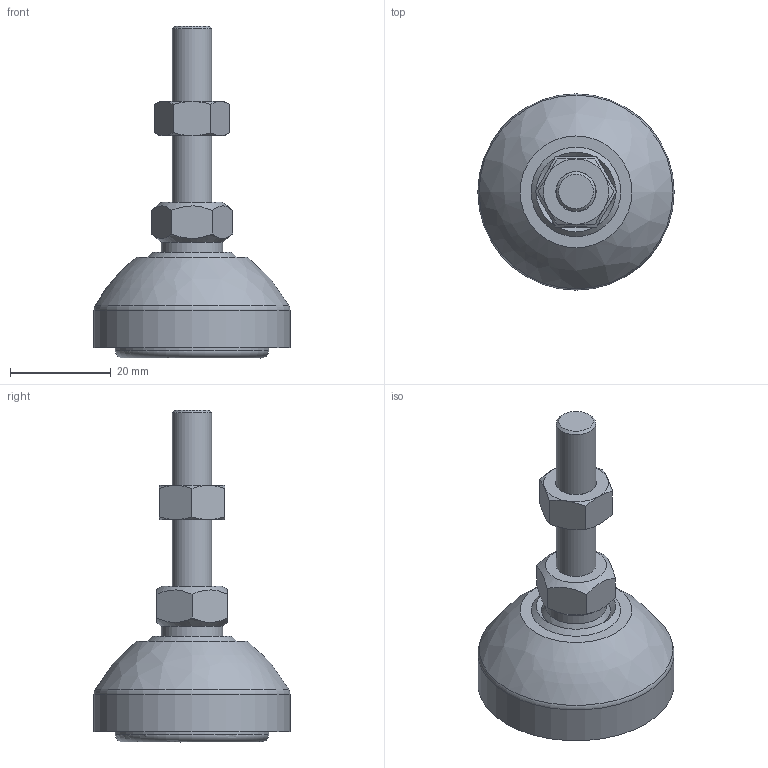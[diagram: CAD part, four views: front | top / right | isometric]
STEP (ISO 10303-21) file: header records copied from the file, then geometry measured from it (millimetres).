
FILE_DESCRIPTION(/* description */ (''),/* implementation_level */ '2;1');
FILE_NAME(/* name */ 'Articulating Anti-slip Levelling Foot - Metal 39mm - M8 - 35mm.step',/* time_stamp */ '2025-10-13T18:15:22+03:00',/* author */ (''),/* organization */ (''),/* preprocessor_version */ 'ST-DEVELOPER v20.1',/* originating_system */ 'Autodesk Translation Framework v14.17.0.0',/* authorisation */ '');
FILE_SCHEMA (('AUTOMOTIVE_DESIGN { 1 0 10303 214 3 1 1 }'));
Length unit declared in the file: millimetre
Products named in the file (5): Articulating Anti-slip Levelling Foot - Metal 39mm - M8 - 35mm; 340.1100A.01; Articulating Levelling Foot Stud - M8 - 35mm; hex nut style 1_am_B18.2.4.1M - Hex nut, Style 1,  M8 x 1.25 --D-N; Articulating Levelling Foot Stud - M8 - 35mm_1
Assembly tree (4 placements, depth 3):
  Articulating Anti-slip Levelling Foot - Metal 39mm - M8 - 35mm
    340.1100A.01
    Articulating Levelling Foot Stud - M8 - 35mm
      hex nut style 1_am_B18.2.4.1M - Hex nut, Style 1,  M8 x 1.25 --D-N
      Articulating Levelling Foot Stud - M8 - 35mm_1
Bounding box: 39 x 39 x 66 mm (x, y, z)
Volume: 22930.5 mm3; surface area: 7950.5 mm2
Topology: 3 solids, 4 shells, 127 faces, 293 edges, 181 vertices
Faces by surface type: plane 59, bspline 28, cone 20, cylinder 17, torus 2, sphere 1
Full cylindrical faces by diameter (mm): 4 x1, 6.779 x1, 7.866 x1, 8 x1, 12.166 x1, 15.052 x1, 30.5 x1, 30.85 x1, 39 x1
Entity records: 4948 total; most frequent: CARTESIAN_POINT 2198, ORIENTED_EDGE 582, DIRECTION 519, EDGE_CURVE 291, AXIS2_PLACEMENT_3D 229, VERTEX_POINT 181, EDGE_LOOP 140, FACE_OUTER_BOUND 127
